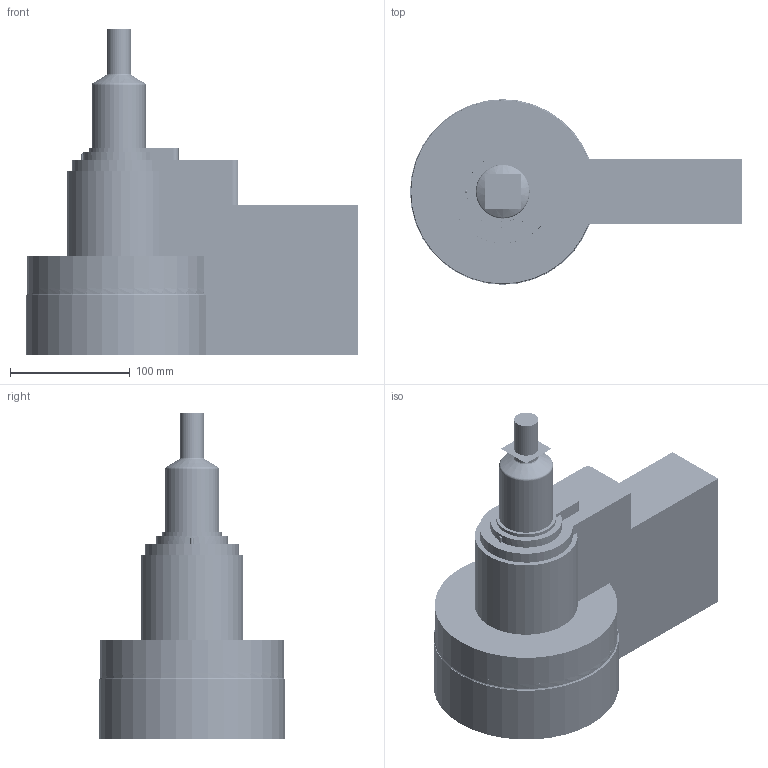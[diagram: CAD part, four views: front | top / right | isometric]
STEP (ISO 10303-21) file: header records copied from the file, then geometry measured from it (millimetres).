
FILE_DESCRIPTION (( 'STEP AP214' ), '1' );
FILE_NAME ('16SVH-06_VSP.STEP', '2021-08-16T07:40:56', ( '' ), ( '' ), 'SwSTEP 2.0', 'SolidWorks 2018', '' );
FILE_SCHEMA (( 'AUTOMOTIVE_DESIGN' ));
Length unit declared in the file: millimetre
Products named in the file (5): cutout_VSP; n80-##s-####-04-mod_N80-50S-0500-04-MOD Ln_warm=181,53 Ln_cold=181,32 Manf1 Set1; 16e-06_16SVH06-VSP-080 Lsb=80 L=90 J=16 Jib1=10 R=40 M=2,605 Ring=0 Manf1 Set1; nozzle_VSP; 16SVH-06_VSP
Assembly tree (4 placements, depth 3):
  16SVH-06_VSP
    16e-06_16SVH06-VSP-080 Lsb=80 L=90 J=16 Jib1=10 R=40 M=2,605 Ring=0 Manf1 Set1
      n80-##s-####-04-mod_N80-50S-0500-04-MOD Ln_warm=181,53 Ln_cold=181,32 Manf1 Set1
    nozzle_VSP
    cutout_VSP
Bounding box: 277.5 x 155 x 273 mm (x, y, z)
Volume: 3200560.2 mm3; surface area: 613862.9 mm2
Topology: 2 solids, 87 shells, 3237 faces, 7835 edges, 4802 vertices
Faces by surface type: cylinder 1079, plane 942, cone 539, torus 328, bspline 299, sphere 50
Entity records: 140159 total; most frequent: CARTESIAN_POINT 64241, DIRECTION 15453, ORIENTED_EDGE 15426, EDGE_CURVE 7715, AXIS2_PLACEMENT_3D 6160, VERTEX_POINT 4790, EDGE_LOOP 3660, FACE_OUTER_BOUND 3237
